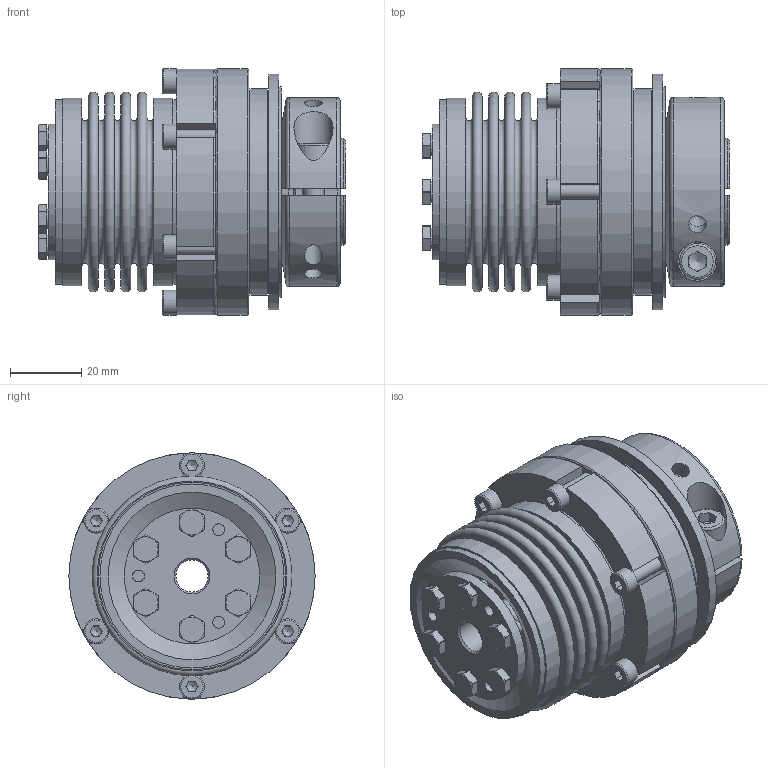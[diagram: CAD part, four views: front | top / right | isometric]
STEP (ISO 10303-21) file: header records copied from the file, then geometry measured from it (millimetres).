
FILE_DESCRIPTION( ( 'Unknown' ), '1' );
FILE_NAME( 'F:/JAKOB-STEP+IGES-Dateien/STEP-Dateien/SKB-KS/SKB-KS 15.stp', 'Unknown', ( 'Unknown' ), ( 'Unknown' ), 'PSStep 10.1', 'Unknown', ' ' );
FILE_SCHEMA( ( 'AUTOMOTIVE_DESIGN { 1 0 10303 214 1 1 1 1 }' ) );
Length unit declared in the file: millimetre
Products named in the file (1): 24817810
Bounding box: 86.3 x 69 x 69 mm (x, y, z)
Volume: 154034.2 mm3; surface area: 82566.6 mm2
Topology: 1 solids, 17 shells, 641 faces, 1648 edges, 1055 vertices
Faces by surface type: plane 302, cylinder 159, torus 82, cone 50, bspline 29, sphere 12, revolution 7
Full cylindrical faces by diameter (mm): 2 x2, 3.3 x17, 4 x12, 4.3 x6, 5 x4, 5.9 x6, 6 x1, 6.5 x1, 7 x6, 9 x1, 10 x2, 11 x1, 22.5 x1, 23.5 x1, 28.6 x1, 29.8 x1, 30 x2, 35 x1, 35.1 x1, 36 x2, 38 x2, 38.2 x2, 38.893 x1, 39.293 x1, 42 x1, 42.246 x1, 43 x1, 47.1 x3, 51.6 x2, 52.6 x2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
Entity records: 24784 total; most frequent: CARTESIAN_POINT 5507, DIRECTION 2963, ORIENTED_EDGE 2658, EDGE_CURVE 1329, AXIS2_PLACEMENT_3D 1241, VERTEX_POINT 947, EDGE_LOOP 924, FACE_OUTER_BOUND 769
